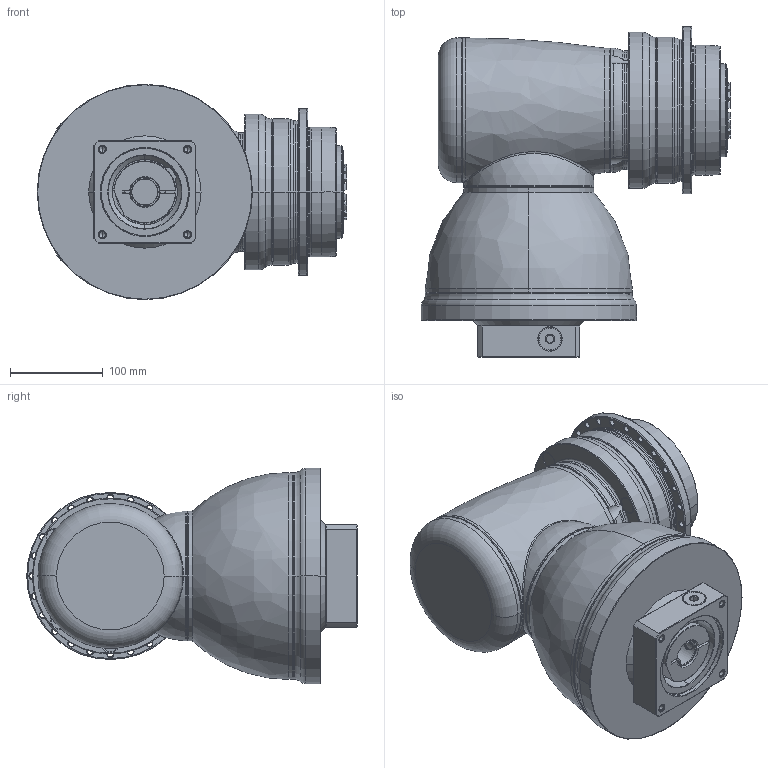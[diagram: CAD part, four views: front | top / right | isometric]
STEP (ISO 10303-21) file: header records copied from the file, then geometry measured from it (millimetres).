
FILE_DESCRIPTION((''),'2;1');
FILE_NAME('APCK140_2ST_SBG_28-P0409610201_ASM','2018-05-18T',('d01226'),(''),'PRO/ENGINEER BY PARAMETRIC TECHNOLOGY CORPORATION, 2008410','PRO/ENGINEER BY PARAMETRIC TECHNOLOGY CORPORATION, 2008410','');
FILE_SCHEMA(('CONFIG_CONTROL_DESIGN'));
Length unit declared in the file: millimetre
Products named in the file (13): P0278501003; P03595D0103; P1211500001; P1802510011; P1018600002; P1365600001; P1007601001; P1318610501; P0409610201; P0503600010; P0129655001; 21711418017; APCK140_2ST_SBG_28-P0409610201_ASM
Assembly tree (12 placements, depth 2):
  APCK140_2ST_SBG_28-P0409610201_ASM
    P0278501003
    P03595D0103
    P1211500001
    P1802510011
    P1018600002
    P1365600001
    P1007601001
    P1318610501
    P0409610201
    P0503600010
    P0129655001
    21711418017
Bounding box: 333.6 x 356 x 232 mm (x, y, z)
Volume: 10702958.1 mm3; surface area: 765786.2 mm2
Topology: 13 solids, 23 shells, 791 faces, 1869 edges, 1149 vertices
Faces by surface type: cylinder 264, cone 231, plane 147, torus 129, bspline 18, sphere 2
Entity records: 26628 total; most frequent: CARTESIAN_POINT 7805, DIRECTION 4236, ORIENTED_EDGE 3668, EDGE_CURVE 1855, AXIS2_PLACEMENT_3D 1852, VERTEX_POINT 1149, CIRCLE 1044, EDGE_LOOP 912
